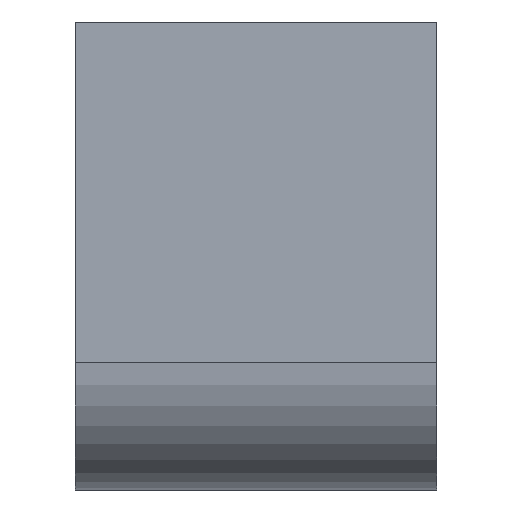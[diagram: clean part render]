
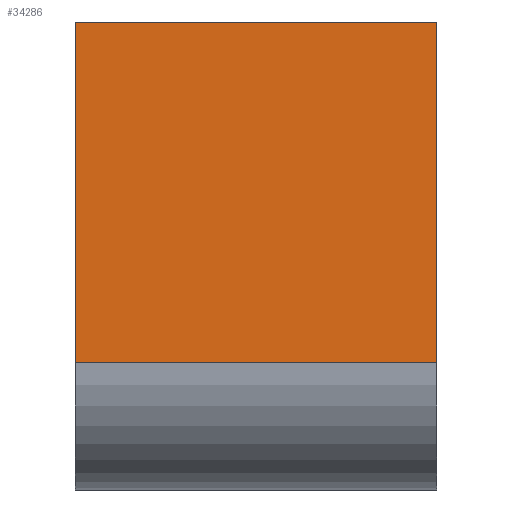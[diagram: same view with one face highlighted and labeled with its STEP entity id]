
A CAD part, left-side view. The second image highlights one B-rep face of the part: STEP entity #34286.
In plain terms, the highlighted planar face has unit normal (-1, 0, 0).
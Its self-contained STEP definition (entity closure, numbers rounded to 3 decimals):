
#1021 = DIRECTION ( 'NONE',  ( 0., -1., 0. ) ) ;
#3791 = EDGE_CURVE ( 'NONE', #44761, #39833, #11933, .T. ) ;
#4357 = FACE_OUTER_BOUND ( 'NONE', #24309, .T. ) ;
#5929 = DIRECTION ( 'NONE',  ( 0., 0., -1. ) ) ;
#9988 = CARTESIAN_POINT ( 'NONE',  ( -3., 8.5, 0. ) ) ;
#11175 = CARTESIAN_POINT ( 'NONE',  ( -3., 8.5, 0. ) ) ;
#11327 = VECTOR ( 'NONE', #5929, 1000. ) ;
#11563 = LINE ( 'NONE', #14749, #28871 ) ;
#11933 = LINE ( 'NONE', #27846, #11327 ) ;
#12849 = ORIENTED_EDGE ( 'NONE', *, *, #21754, .T. ) ;
#13329 = VECTOR ( 'NONE', #31903, 1000. ) ;
#13543 = ORIENTED_EDGE ( 'NONE', *, *, #3791, .F. ) ;
#14749 = CARTESIAN_POINT ( 'NONE',  ( -3., 8.5, 0. ) ) ;
#14883 = DIRECTION ( 'NONE',  ( 0., 0., 1. ) ) ;
#15704 = ORIENTED_EDGE ( 'NONE', *, *, #47765, .F. ) ;
#16557 = CARTESIAN_POINT ( 'NONE',  ( -3., 8.5, 0. ) ) ;
#17749 = EDGE_CURVE ( 'NONE', #27176, #38165, #31236, .T. ) ;
#18292 = DIRECTION ( 'NONE',  ( 0., -1., 0. ) ) ;
#19402 = LINE ( 'NONE', #26668, #26332 ) ;
#21754 = EDGE_CURVE ( 'NONE', #38165, #39833, #11563, .T. ) ;
#24309 = EDGE_LOOP ( 'NONE', ( #13543, #15704, #36952, #12849 ) ) ;
#25526 = DIRECTION ( 'NONE',  ( -1., 0., 0. ) ) ;
#26332 = VECTOR ( 'NONE', #1021, 1000. ) ;
#26668 = CARTESIAN_POINT ( 'NONE',  ( -3., 8.5, 8. ) ) ;
#27176 = VERTEX_POINT ( 'NONE', #29532 ) ;
#27846 = CARTESIAN_POINT ( 'NONE',  ( -3., 0., 0. ) ) ;
#28871 = VECTOR ( 'NONE', #18292, 1000. ) ;
#29532 = CARTESIAN_POINT ( 'NONE',  ( -3., 8.5, 8. ) ) ;
#31236 = LINE ( 'NONE', #9988, #13329 ) ;
#31903 = DIRECTION ( 'NONE',  ( 0., 0., -1. ) ) ;
#34286 = ADVANCED_FACE ( 'NONE', ( #4357 ), #44060, .T. ) ;
#36952 = ORIENTED_EDGE ( 'NONE', *, *, #17749, .T. ) ;
#38165 = VERTEX_POINT ( 'NONE', #16557 ) ;
#39833 = VERTEX_POINT ( 'NONE', #41626 ) ;
#40586 = AXIS2_PLACEMENT_3D ( 'NONE', #11175, #25526, #14883 ) ;
#41626 = CARTESIAN_POINT ( 'NONE',  ( -3., 0., 0. ) ) ;
#43495 = CARTESIAN_POINT ( 'NONE',  ( -3., 0., 8. ) ) ;
#44060 = PLANE ( 'NONE',  #40586 ) ;
#44761 = VERTEX_POINT ( 'NONE', #43495 ) ;
#47765 = EDGE_CURVE ( 'NONE', #27176, #44761, #19402, .T. ) ;
